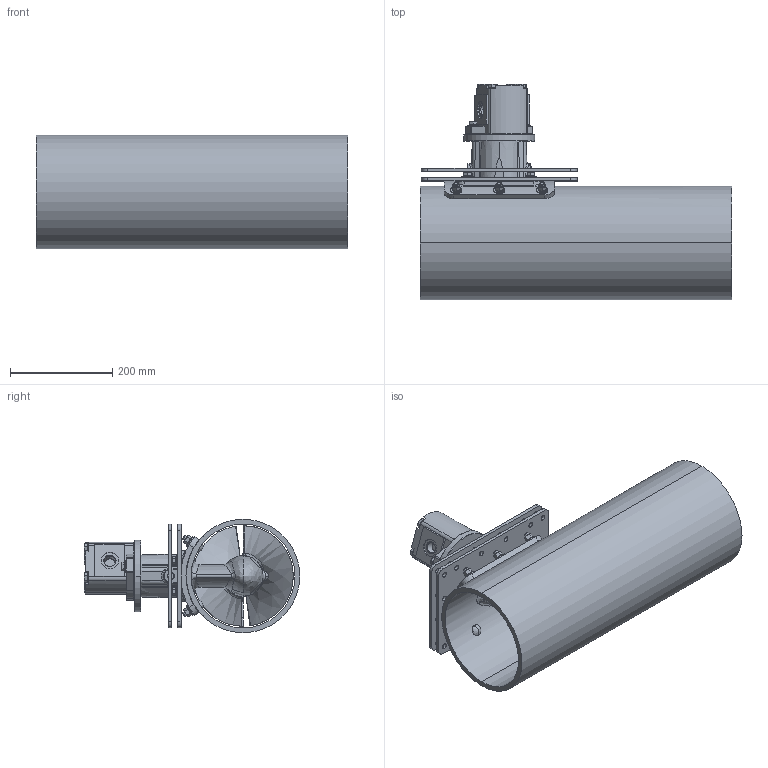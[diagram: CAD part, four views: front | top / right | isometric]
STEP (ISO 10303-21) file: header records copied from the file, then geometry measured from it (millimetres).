
FILE_DESCRIPTION (( 'STEP AP214' ), '1' );
FILE_NAME ('KP08X-H-ST_revA.STEP', '2020-09-25T20:01:23', ( '' ), ( '' ), 'SwSTEP 2.0', 'SolidWorks 2019', '' );
FILE_SCHEMA (( 'AUTOMOTIVE_DESIGN' ));
Length unit declared in the file: inch
Products named in the file (2): KP08X-H-ST_revA
Bounding box: 609.6 x 422.22 x 222.25 mm (x, y, z)
Volume: 940068.7 mm3; surface area: 1332913.2 mm2
Topology: 2 solids, 3 shells, 1106 faces, 2774 edges, 1702 vertices
Faces by surface type: plane 414, cylinder 344, cone 180, bspline 131, torus 31, sphere 6
Entity records: 56532 total; most frequent: CARTESIAN_POINT 31184, ORIENTED_EDGE 5516, DIRECTION 4975, EDGE_CURVE 2758, AXIS2_PLACEMENT_3D 1979, VERTEX_POINT 1705, EDGE_LOOP 1269, ADVANCED_FACE 1106
